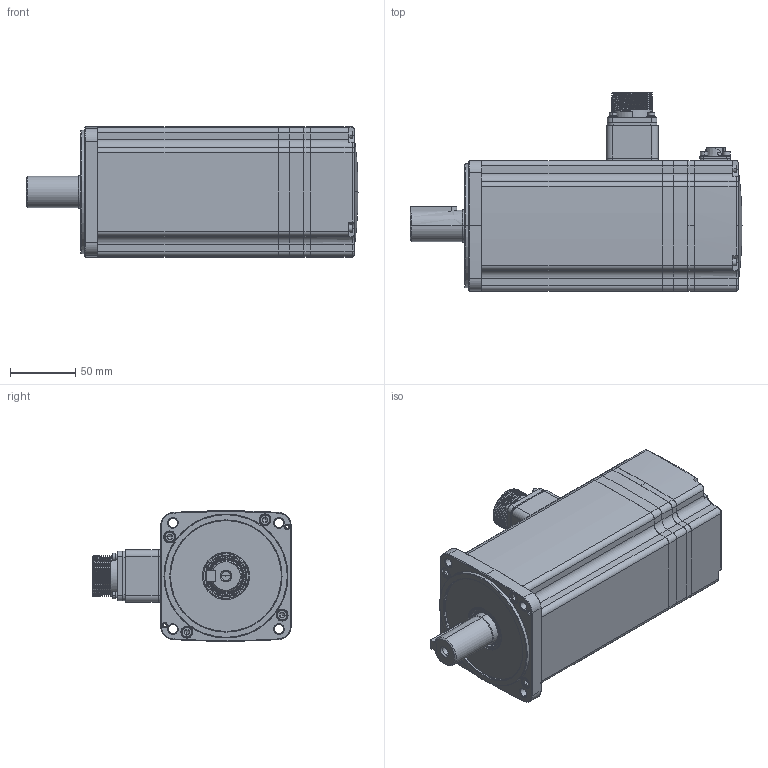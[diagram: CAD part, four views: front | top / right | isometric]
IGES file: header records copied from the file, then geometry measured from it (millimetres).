
Start section: SolidWorks IGES file using analytic representation for surfaces
Bounding box: 254.5 x 152.05 x 100 mm (x, y, z)
Surface area: 135828.1 mm2 (no closed solid volume)
Topology: 0 solids, 0 shells, 716 faces, 10315 edges, 10280 vertices
Faces by surface type: revolution 382, bspline 334
